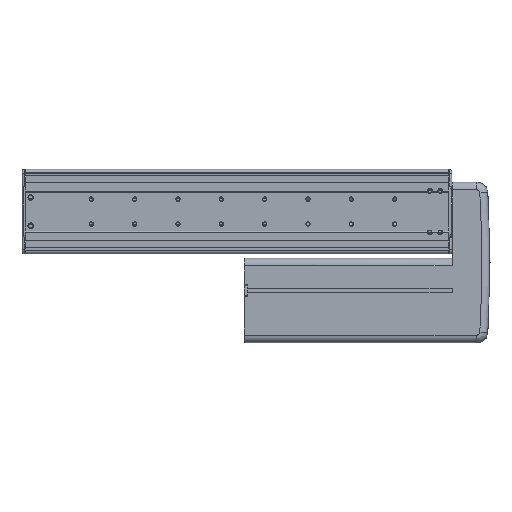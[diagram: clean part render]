
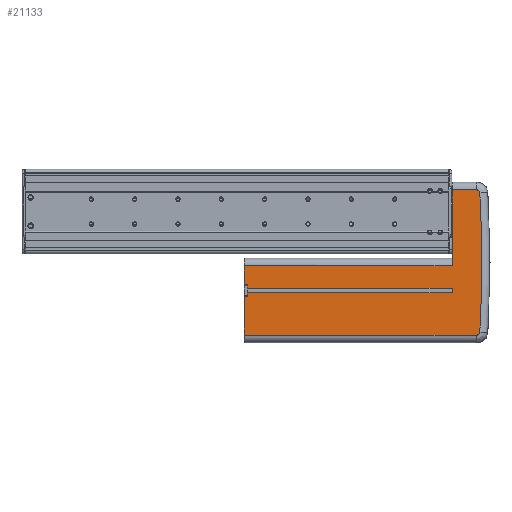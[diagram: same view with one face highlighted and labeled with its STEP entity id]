
A CAD part, front view. The second image highlights one B-rep face of the part: STEP entity #21133.
In plain terms, the highlighted planar face has unit normal (0, -1, 0).
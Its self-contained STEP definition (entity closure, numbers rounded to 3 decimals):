
#806=DIRECTION('',(-1.,0.,0.));
#807=VECTOR('',#806,189.);
#808=CARTESIAN_POINT('',(394.,5.,-75.1));
#809=LINE('',#808,#807);
#818=DIRECTION('',(0.,0.,1.));
#819=VECTOR('',#818,4.2);
#820=CARTESIAN_POINT('',(394.,5.,-75.1));
#821=LINE('',#820,#819);
#822=DIRECTION('',(0.,0.,-1.));
#823=VECTOR('',#822,3.4);
#824=CARTESIAN_POINT('',(205.,5.,-67.5));
#825=LINE('',#824,#823);
#826=DIRECTION('',(0.,0.,-1.));
#827=VECTOR('',#826,17.5);
#828=CARTESIAN_POINT('',(202.,5.,-50.));
#829=LINE('',#828,#827);
#830=DIRECTION('',(1.,0.,0.));
#831=VECTOR('',#830,192.);
#832=CARTESIAN_POINT('',(202.,5.,-50.));
#833=LINE('',#832,#831);
#834=DIRECTION('',(0.,0.,1.));
#835=VECTOR('',#834,70.);
#836=CARTESIAN_POINT('',(394.,5.,-50.));
#837=LINE('',#836,#835);
#838=CARTESIAN_POINT('',(416.587,5.,16.999));
#839=DIRECTION('',(0.,1.,0.));
#840=DIRECTION('',(0.,0.,1.));
#841=AXIS2_PLACEMENT_3D('',#838,#839,#840);
#843=CARTESIAN_POINT('',(-571.,5.,-47.));
#844=DIRECTION('',(0.,1.,0.));
#845=DIRECTION('',(0.998,0.,0.065));
#846=AXIS2_PLACEMENT_3D('',#843,#844,#845);
#848=CARTESIAN_POINT('',(416.587,5.,-110.999));
#849=DIRECTION('',(0.,1.,0.));
#850=DIRECTION('',(0.998,0.,-0.065));
#851=AXIS2_PLACEMENT_3D('',#848,#849,#850);
#853=DIRECTION('',(0.,0.,-1.));
#854=VECTOR('',#853,35.5);
#855=CARTESIAN_POINT('',(202.,5.,-78.5));
#856=LINE('',#855,#854);
#857=DIRECTION('',(0.,0.,-1.));
#858=VECTOR('',#857,3.4);
#859=CARTESIAN_POINT('',(205.,5.,-75.1));
#860=LINE('',#859,#858);
#877=DIRECTION('',(1.,0.,0.));
#878=VECTOR('',#877,189.);
#879=CARTESIAN_POINT('',(205.,5.,-70.9));
#880=LINE('',#879,#878);
#13618=DIRECTION('',(1.,0.,0.));
#13619=VECTOR('',#13618,192.);
#13620=CARTESIAN_POINT('',(202.,5.,-114.));
#13621=LINE('',#13620,#13619);
#13622=DIRECTION('',(1.,0.,0.));
#13623=VECTOR('',#13622,22.587);
#13624=CARTESIAN_POINT('',(394.,5.,-114.));
#13625=LINE('',#13624,#13623);
#14045=DIRECTION('',(-1.,0.,0.));
#14046=VECTOR('',#14045,22.587);
#14047=CARTESIAN_POINT('',(416.587,5.,20.));
#14048=LINE('',#14047,#14046);
#14705=DIRECTION('',(1.,0.,0.));
#14706=VECTOR('',#14705,3.);
#14707=CARTESIAN_POINT('',(202.,5.,-67.5));
#14708=LINE('',#14707,#14706);
#14729=DIRECTION('',(-1.,0.,0.));
#14730=VECTOR('',#14729,3.);
#14731=CARTESIAN_POINT('',(205.,5.,-78.5));
#14732=LINE('',#14731,#14730);
#15981=CARTESIAN_POINT('',(202.,5.,-114.));
#15982=VERTEX_POINT('',#15981);
#15983=CARTESIAN_POINT('',(202.,5.,-78.5));
#15984=VERTEX_POINT('',#15983);
#15993=CARTESIAN_POINT('',(202.,5.,-67.5));
#15994=VERTEX_POINT('',#15993);
#15995=CARTESIAN_POINT('',(202.,5.,-50.));
#15996=VERTEX_POINT('',#15995);
#16142=CARTESIAN_POINT('',(394.,5.,20.));
#16144=VERTEX_POINT('',#16142);
#16157=CARTESIAN_POINT('',(416.587,5.,
-114.));
#16158=VERTEX_POINT('',#16157);
#16159=CARTESIAN_POINT('',(419.582,5.,
-111.194));
#16160=VERTEX_POINT('',#16159);
#16161=CARTESIAN_POINT('',(419.582,5.,17.194));
#16162=VERTEX_POINT('',#16161);
#16163=CARTESIAN_POINT('',(416.587,5.,20.));
#16164=VERTEX_POINT('',#16163);
#16210=CARTESIAN_POINT('',(205.,5.,-75.1));
#16212=VERTEX_POINT('',#16210);
#16224=CARTESIAN_POINT('',(205.,5.,-70.9));
#16225=VERTEX_POINT('',#16224);
#19570=CARTESIAN_POINT('',(205.,5.,-67.5));
#19572=VERTEX_POINT('',#19570);
#19580=CARTESIAN_POINT('',(205.,5.,-78.5));
#19581=VERTEX_POINT('',#19580);
#19744=CARTESIAN_POINT('',(394.,5.,-75.1));
#19745=VERTEX_POINT('',#19744);
#19746=CARTESIAN_POINT('',(394.,5.,-70.9));
#19747=VERTEX_POINT('',#19746);
#19748=CARTESIAN_POINT('',(394.,5.,-50.));
#19749=VERTEX_POINT('',#19748);
#19756=CARTESIAN_POINT('',(394.,5.,-114.));
#19757=VERTEX_POINT('',#19756);
#21099=CARTESIAN_POINT('',(299.5,5.,-94.55));
#21100=DIRECTION('',(0.,1.,0.));
#21101=DIRECTION('',(0.,0.,-1.));
#21102=AXIS2_PLACEMENT_3D('',#21099,#21100,#21101);
#21103=PLANE('',#21102);
#21104=ORIENTED_EDGE('',*,*,#20769,.T.);
#21106=ORIENTED_EDGE('',*,*,#21105,.F.);
#21107=ORIENTED_EDGE('',*,*,#20630,.F.);
#21109=ORIENTED_EDGE('',*,*,#21108,.F.);
#21110=ORIENTED_EDGE('',*,*,#20383,.F.);
#21112=ORIENTED_EDGE('',*,*,#21111,.T.);
#21113=ORIENTED_EDGE('',*,*,#20990,.T.);
#21115=ORIENTED_EDGE('',*,*,#21114,.F.);
#21117=ORIENTED_EDGE('',*,*,#21116,.T.);
#21119=ORIENTED_EDGE('',*,*,#21118,.T.);
#21121=ORIENTED_EDGE('',*,*,#21120,.T.);
#21123=ORIENTED_EDGE('',*,*,#21122,.F.);
#21125=ORIENTED_EDGE('',*,*,#21124,.F.);
#21126=ORIENTED_EDGE('',*,*,#20395,.F.);
#21128=ORIENTED_EDGE('',*,*,#21127,.F.);
#21129=ORIENTED_EDGE('',*,*,#20646,.F.);
#21130=ORIENTED_EDGE('',*,*,#21089,.F.);
#21131=EDGE_LOOP('',(#21104,#21106,#21107,#21109,#21110,#21112,#21113,#21115,
#21117,#21119,#21121,#21123,#21125,#21126,#21128,#21129,#21130));
#21132=FACE_OUTER_BOUND('',#21131,.F.);
#21133=ADVANCED_FACE('',(#21132),#21103,.F.);
#842=CIRCLE('',#841,3.001);
#847=CIRCLE('',#846,992.66);
#852=CIRCLE('',#851,3.001);
#20383=EDGE_CURVE('',#15996,#15994,#829,.T.);
#20395=EDGE_CURVE('',#15984,#15982,#856,.T.);
#20630=EDGE_CURVE('',#19572,#16225,#825,.T.);
#20646=EDGE_CURVE('',#16212,#19581,#860,.T.);
#20769=EDGE_CURVE('',#19745,#19747,#821,.T.);
#20990=EDGE_CURVE('',#19749,#16144,#837,.T.);
#21089=EDGE_CURVE('',#19745,#16212,#809,.T.);
#21105=EDGE_CURVE('',#16225,#19747,#880,.T.);
#21108=EDGE_CURVE('',#15994,#19572,#14708,.T.);
#21111=EDGE_CURVE('',#15996,#19749,#833,.T.);
#21114=EDGE_CURVE('',#16164,#16144,#14048,.T.);
#21116=EDGE_CURVE('',#16164,#16162,#842,.T.);
#21118=EDGE_CURVE('',#16162,#16160,#847,.T.);
#21120=EDGE_CURVE('',#16160,#16158,#852,.T.);
#21122=EDGE_CURVE('',#19757,#16158,#13625,.T.);
#21124=EDGE_CURVE('',#15982,#19757,#13621,.T.);
#21127=EDGE_CURVE('',#19581,#15984,#14732,.T.);
